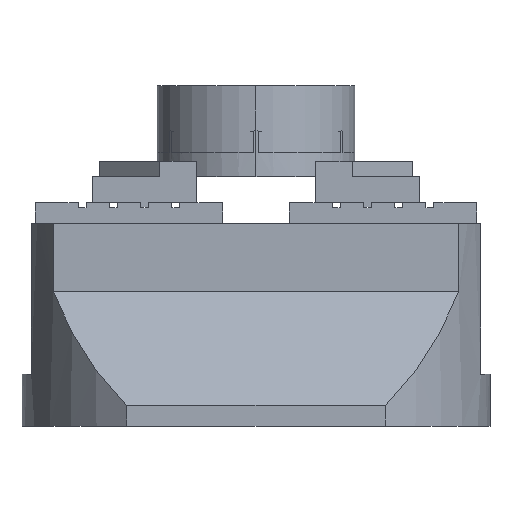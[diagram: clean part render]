
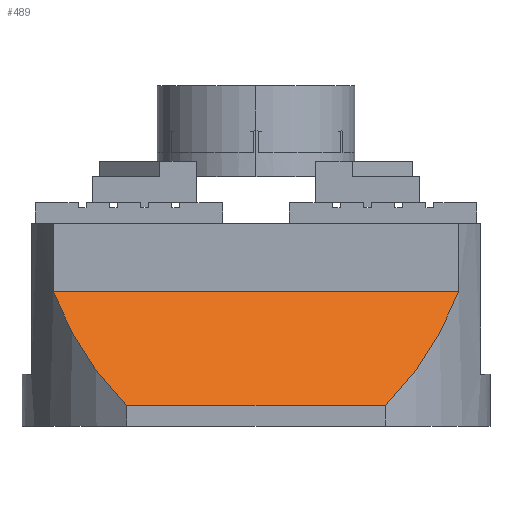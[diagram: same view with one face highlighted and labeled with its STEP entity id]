
A CAD part, left-side view. The second image highlights one B-rep face of the part: STEP entity #489.
In plain terms, the highlighted planar face has unit normal (-0.824, 0, 0.566).
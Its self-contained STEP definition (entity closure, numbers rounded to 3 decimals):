
#419=CARTESIAN_POINT('Vertex',(-75.,-49.749,8.)) ;
#422=CARTESIAN_POINT('Line Origine',(-75.,0.,8.)) ;
#426=CARTESIAN_POINT('Vertex',(-75.,49.749,8.)) ;
#441=CARTESIAN_POINT('Axis2P3D Location',(-75.,0.,8.)) ;
#447=CARTESIAN_POINT('Control Point',(-75.,-49.749,8.)) ;
#448=CARTESIAN_POINT('Control Point',(-72.881,-52.944,11.087)) ;
#449=CARTESIAN_POINT('Control Point',(-70.659,-55.925,14.324)) ;
#450=CARTESIAN_POINT('Control Point',(-68.355,-58.706,17.679)) ;
#451=CARTESIAN_POINT('Control Point',(-63.234,-64.311,25.138)) ;
#452=CARTESIAN_POINT('Control Point',(-57.853,-69.101,32.976)) ;
#453=CARTESIAN_POINT('Control Point',(-54.904,-71.458,37.271)) ;
#454=CARTESIAN_POINT('Control Point',(-51.148,-74.158,42.743)) ;
#455=CARTESIAN_POINT('Control Point',(-47.33,-76.558,48.304)) ;
#456=CARTESIAN_POINT('Control Point',(-46.555,-77.031,49.432)) ;
#457=CARTESIAN_POINT('Control Point',(-45.779,-77.493,50.563)) ;
#458=CARTESIAN_POINT('Control Point',(-45.,-77.942,51.698)) ;
#459=CARTESIAN_POINT('Vertex',(-45.,-77.942,51.698)) ;
#462=CARTESIAN_POINT('Line Origine',(-45.,0.,51.698)) ;
#466=CARTESIAN_POINT('Vertex',(-45.,77.942,51.698)) ;
#470=CARTESIAN_POINT('Control Point',(-75.,49.749,8.)) ;
#471=CARTESIAN_POINT('Control Point',(-72.881,52.944,11.087)) ;
#472=CARTESIAN_POINT('Control Point',(-70.659,55.925,14.324)) ;
#473=CARTESIAN_POINT('Control Point',(-68.355,58.706,17.679)) ;
#474=CARTESIAN_POINT('Control Point',(-63.234,64.311,25.138)) ;
#475=CARTESIAN_POINT('Control Point',(-57.853,69.101,32.976)) ;
#476=CARTESIAN_POINT('Control Point',(-54.904,71.458,37.271)) ;
#477=CARTESIAN_POINT('Control Point',(-51.148,74.158,42.743)) ;
#478=CARTESIAN_POINT('Control Point',(-47.33,76.558,48.304)) ;
#479=CARTESIAN_POINT('Control Point',(-46.555,77.031,49.432)) ;
#480=CARTESIAN_POINT('Control Point',(-45.779,77.493,50.563)) ;
#481=CARTESIAN_POINT('Control Point',(-45.,77.942,51.698)) ;
#423=DIRECTION('Vector Direction',(0.,1.,0.)) ;
#442=DIRECTION('Axis2P3D Direction',(-0.824,0.,0.566)) ;
#443=DIRECTION('Axis2P3D XDirection',(0.566,0.,0.824)) ;
#463=DIRECTION('Vector Direction',(0.,1.,0.)) ;
#444=AXIS2_PLACEMENT_3D('Plane Axis2P3D',#441,#442,#443) ;
#484=ORIENTED_EDGE('',*,*,#461,.T.) ;
#485=ORIENTED_EDGE('',*,*,#468,.T.) ;
#486=ORIENTED_EDGE('',*,*,#482,.F.) ;
#487=ORIENTED_EDGE('',*,*,#428,.F.) ;
#424=VECTOR('Line Direction',#423,1.) ;
#464=VECTOR('Line Direction',#463,1.) ;
#489=ADVANCED_FACE('Corps principal',(#488),#445,.T.) ;
#446=B_SPLINE_CURVE_WITH_KNOTS('',5,(#447,#448,#449,#450,#451,#452,#453,#454,#455,#456,#457,#458),.UNSPECIFIED.,.F.,.U.,(6,3,3,6),(0.,34.802,75.196,85.432),.UNSPECIFIED.) ;
#469=B_SPLINE_CURVE_WITH_KNOTS('',5,(#470,#471,#472,#473,#474,#475,#476,#477,#478,#479,#480,#481),.UNSPECIFIED.,.F.,.U.,(6,3,3,6),(0.,34.802,75.196,85.432),.UNSPECIFIED.) ;
#428=EDGE_CURVE('',#420,#427,#425,.T.) ;
#461=EDGE_CURVE('',#420,#460,#446,.T.) ;
#468=EDGE_CURVE('',#460,#467,#465,.T.) ;
#482=EDGE_CURVE('',#427,#467,#469,.T.) ;
#483=EDGE_LOOP('',(#484,#485,#486,#487)) ;
#488=FACE_OUTER_BOUND('',#483,.T.) ;
#425=LINE('Line',#422,#424) ;
#465=LINE('Line',#462,#464) ;
#445=PLANE('',#444) ;
#420=VERTEX_POINT('',#419) ;
#427=VERTEX_POINT('',#426) ;
#460=VERTEX_POINT('',#459) ;
#467=VERTEX_POINT('',#466) ;
